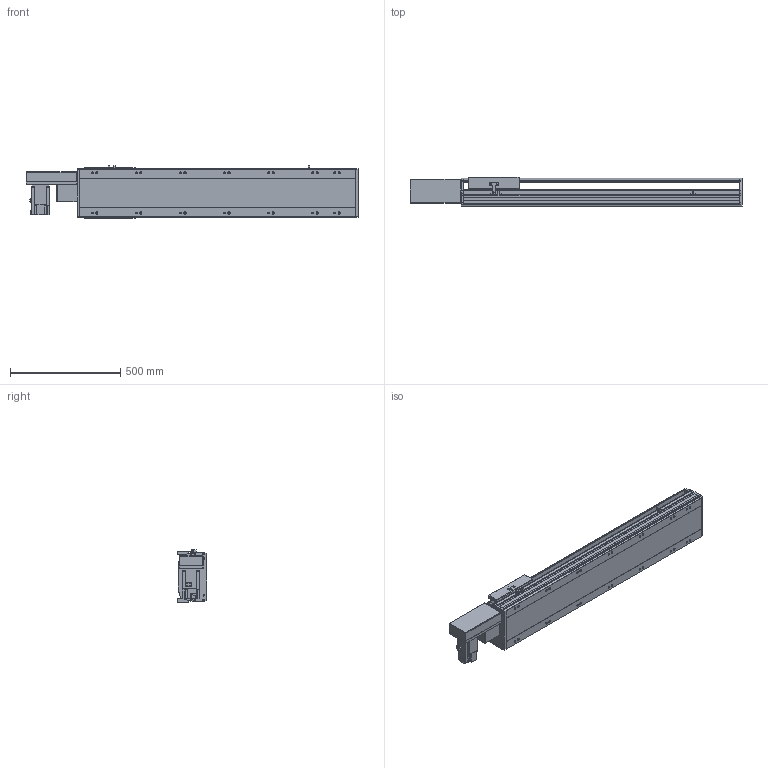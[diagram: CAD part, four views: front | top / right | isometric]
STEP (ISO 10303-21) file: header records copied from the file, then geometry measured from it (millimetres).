
FILE_DESCRIPTION(/* description */ ('STEP AP214'),/* implementation_level */ '2;1');
FILE_NAME(/* name */ 'PBS220-P40-S900-R-T75-C1-N(0)',/* time_stamp */ '2022-06-11T10:00:31+02:00',/* author */ ('License CC BY-ND 4.0'),/* organization */ ('CADENAS'),/* preprocessor_version */ 'ST-DEVELOPER v18.102',/* originating_system */ 'PARTsolutions',/* authorisation */ ' ');
FILE_SCHEMA (('AUTOMOTIVE_DESIGN {1 0 10303 214 3 1 1}'));
Length unit declared in the file: millimetre
Products named in the file (7): PBS220-P40-S900-R-T75-C1-N(0); PBS220_sensor; PBS220_plant; PBS220_sliser; T75-p1; PBS220T-R_motors; PBS220-S900()_body
Assembly tree (8 placements, depth 2):
  PBS220-P40-S900-R-T75-C1-N(0)
    PBS220_sensor  x3
    PBS220_plant
    PBS220_sliser
    T75-p1
    PBS220T-R_motors
    PBS220-S900()_body
Bounding box: 1506 x 134 x 238.5 mm (x, y, z)
Volume: 20108964.3 mm3; surface area: 1986223.8 mm2
Topology: 8 solids, 8 shells, 902 faces, 2368 edges, 1540 vertices
Faces by surface type: plane 594, cylinder 270, cone 38
Full cylindrical faces by diameter (mm): 2.013 x4, 4.5 x14, 4.917 x4, 6 x7, 6.647 x8, 8 x10, 8.376 x14, 8.5 x14, 10 x6, 14 x14, 38 x2, 40 x1, 70 x1
Entity records: 25317 total; most frequent: CARTESIAN_POINT 4426, DIRECTION 4401, ORIENTED_EDGE 4070, EDGE_CURVE 2035, AXIS2_PLACEMENT_3D 1529, VERTEX_POINT 1400, LINE 1343, VECTOR 1343
